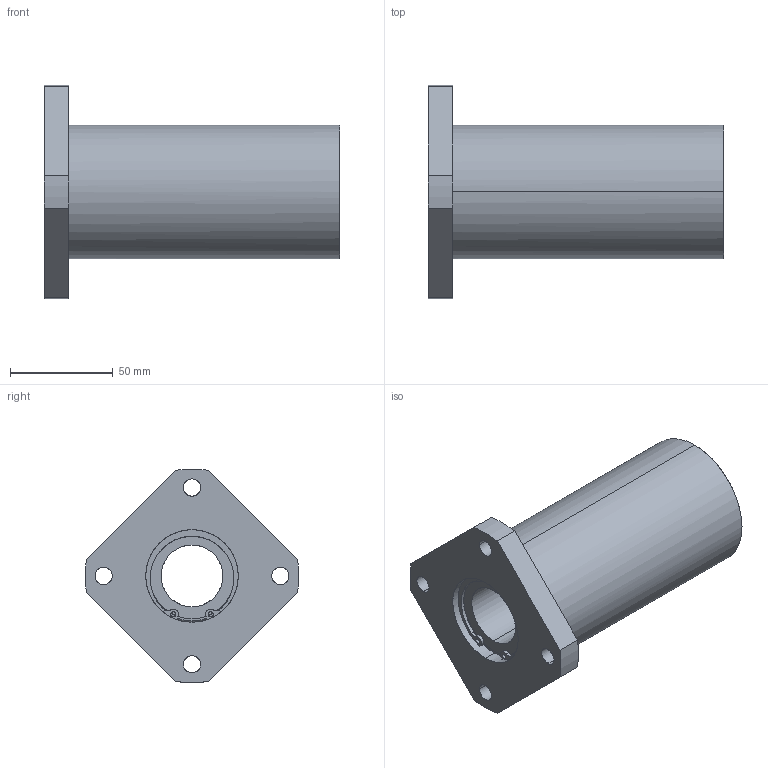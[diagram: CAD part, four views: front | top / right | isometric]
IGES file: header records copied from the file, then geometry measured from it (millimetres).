
Global section: file name: No Iges File Name specified; native system: AutoDesk Inventor R11.0; preprocessor: AutoDesk Inventor Iges Exporter R11.0; author: No Author specified; organization: No Organization specified; date: 20170921.175121; units: millimetre
Bounding box: 144 x 103.86 x 103.93 mm (x, y, z)
Surface area: 60805 mm2 (no closed solid volume)
Topology: 0 solids, 0 shells, 92 faces, 716 edges, 716 vertices
Faces by surface type: bspline 92
